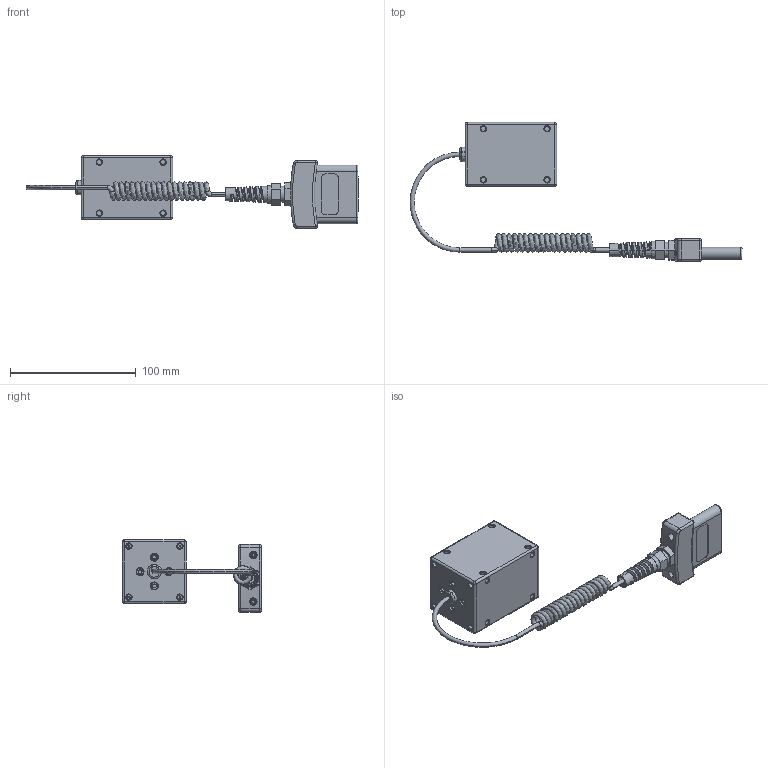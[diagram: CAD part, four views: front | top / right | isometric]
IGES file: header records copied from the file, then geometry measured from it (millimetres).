
Global section: file name: No Iges File Name specified; native system: Autodesk Inventor 2010; preprocessor: AutoDesk Inventor Iges Exporter R2010; author: mlampen; date: 20170418.113218; units: inch
Bounding box: 264.5 x 110.74 x 57.75 mm (x, y, z)
Volume: 226140.4 mm3; surface area: 47969.2 mm2
Topology: 6 solids, 6 shells, 870 faces, 2181 edges, 1355 vertices
Faces by surface type: revolution 313, plane 279, cylinder 99, bspline 82, cone 57, torus 28, sphere 12
Full cylindrical faces by diameter (mm): 2.02 x13, 2.845 x14
